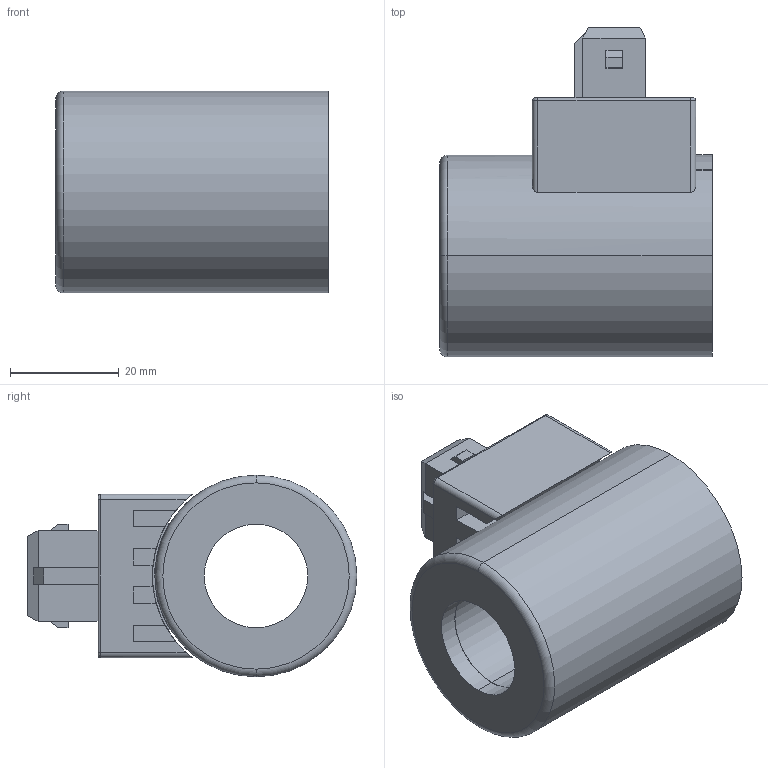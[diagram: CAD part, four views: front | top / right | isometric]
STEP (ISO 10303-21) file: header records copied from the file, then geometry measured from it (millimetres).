
FILE_DESCRIPTION (( 'STEP AP203' ), '1' );
FILE_NAME ('VJE37_19x50.step', '2013-07-08T11:41:10', ( 'Wandfluh AG' ), ( 'Wandfluh AG' ), 'SwSTEP 2.0', 'SolidWorks 2012', '' );
FILE_SCHEMA (( 'CONFIG_CONTROL_DESIGN' ));
Length unit declared in the file: millimetre
Products named in the file (1): VJE37_19x50
Bounding box: 50 x 60.5 x 37 mm (x, y, z)
Surface area: 24948 mm2 (no closed solid volume)
Topology: 0 solids, 8 shells, 118 faces, 310 edges, 201 vertices
Faces by surface type: plane 77, cylinder 27, bspline 8, cone 4, torus 2
Entity records: 3879 total; most frequent: CARTESIAN_POINT 931, DIRECTION 594, ORIENTED_EDGE 564, EDGE_CURVE 310, LINE 214, VECTOR 214, VERTEX_POINT 201, AXIS2_PLACEMENT_3D 190
